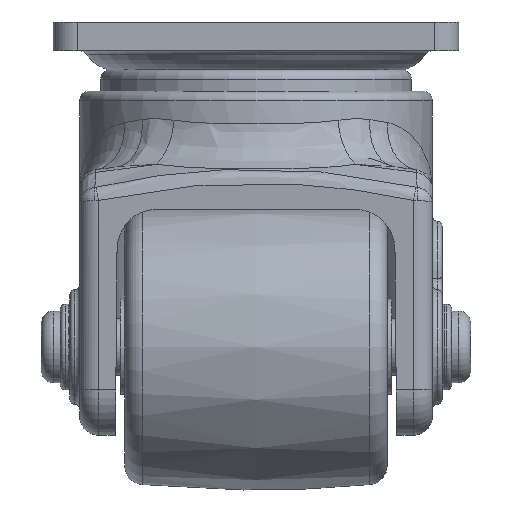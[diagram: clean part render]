
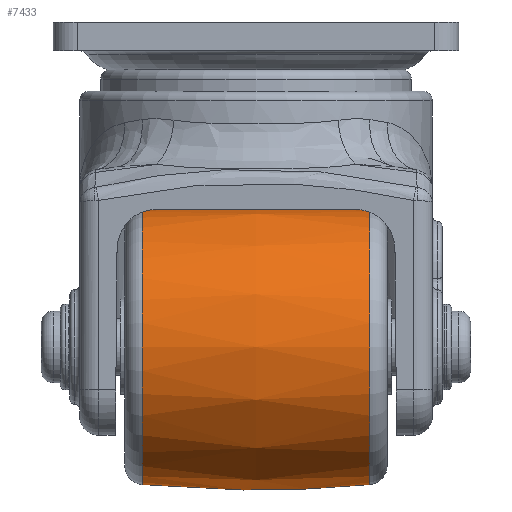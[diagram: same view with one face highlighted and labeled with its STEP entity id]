
A CAD part, left-side view. The second image highlights one B-rep face of the part: STEP entity #7433.
In plain terms, the highlighted free-form (B-spline) face has degree [2, 2] with [3, 9] control points.
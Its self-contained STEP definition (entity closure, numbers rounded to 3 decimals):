
#15=(
BOUNDED_CURVE()
B_SPLINE_CURVE(2,(#22736,#22737,#22738),.UNSPECIFIED.,.F.,.F.)
B_SPLINE_CURVE_WITH_KNOTS((3,3),(-0.096,0.096),
 .UNSPECIFIED.)
CURVE()
GEOMETRIC_REPRESENTATION_ITEM()
RATIONAL_B_SPLINE_CURVE((1.,0.995,1.))
REPRESENTATION_ITEM('')
);
#41=(
BOUNDED_SURFACE()
B_SPLINE_SURFACE(2,2,((#22708,#22709,#22710,#22711,#22712,#22713,#22714,
#22715,#22716),(#22717,#22718,#22719,#22720,#22721,#22722,#22723,#22724,
#22725),(#22726,#22727,#22728,#22729,#22730,#22731,#22732,#22733,#22734)),
 .UNSPECIFIED.,.F.,.T.,.F.)
B_SPLINE_SURFACE_WITH_KNOTS((3,3),(3,2,2,2,3),(-0.096,0.096),
(-3.142,-1.571,0.,1.571,3.142),
 .UNSPECIFIED.)
GEOMETRIC_REPRESENTATION_ITEM()
RATIONAL_B_SPLINE_SURFACE(((1.,0.707,1.,0.707,1.,
0.707,1.,0.707,1.),(0.995,0.704,
0.995,0.704,0.995,0.704,
0.995,0.704,0.995),(1.,0.707,
1.,0.707,1.,0.707,1.,0.707,1.)))
REPRESENTATION_ITEM('')
SURFACE()
);
#570=CIRCLE('',#8159,28.857);
#571=CIRCLE('',#8160,28.857);
#572=CIRCLE('',#8161,28.857);
#573=CIRCLE('',#8162,28.857);
#1557=FACE_OUTER_BOUND('',#2126,.T.);
#2126=EDGE_LOOP('',(#6763,#6764,#6765,#6766,#6767,#6768));
#3623=VERTEX_POINT('',#22704);
#3624=VERTEX_POINT('',#22705);
#3625=VERTEX_POINT('',#22735);
#3626=VERTEX_POINT('',#22739);
#4683=EDGE_CURVE('',#3623,#3624,#570,.T.);
#4684=EDGE_CURVE('',#3624,#3623,#571,.T.);
#4685=EDGE_CURVE('',#3624,#3625,#15,.T.);
#4686=EDGE_CURVE('',#3626,#3625,#572,.T.);
#4687=EDGE_CURVE('',#3625,#3626,#573,.T.);
#6763=ORIENTED_EDGE('',*,*,#4683,.T.);
#6764=ORIENTED_EDGE('',*,*,#4685,.T.);
#6765=ORIENTED_EDGE('',*,*,#4686,.F.);
#6766=ORIENTED_EDGE('',*,*,#4687,.F.);
#6767=ORIENTED_EDGE('',*,*,#4685,.F.);
#6768=ORIENTED_EDGE('',*,*,#4684,.T.);
#7433=ADVANCED_FACE('',(#1557),#41,.F.);
#8159=AXIS2_PLACEMENT_3D('',#22706,#9975,#9976);
#8160=AXIS2_PLACEMENT_3D('',#22707,#9977,#9978);
#8161=AXIS2_PLACEMENT_3D('',#22740,#9979,#9980);
#8162=AXIS2_PLACEMENT_3D('',#22741,#9981,#9982);
#9975=DIRECTION('center_axis',(0.,-1.,0.));
#9976=DIRECTION('ref_axis',(1.,0.,0.));
#9977=DIRECTION('center_axis',(0.,-1.,0.));
#9978=DIRECTION('ref_axis',(1.,0.,0.));
#9979=DIRECTION('center_axis',(0.,-1.,0.));
#9980=DIRECTION('ref_axis',(1.,0.,0.));
#9981=DIRECTION('center_axis',(0.,-1.,0.));
#9982=DIRECTION('ref_axis',(1.,0.,0.));
#22704=CARTESIAN_POINT('',(100.326,143.221,-17.05));
#22705=CARTESIAN_POINT('',(71.47,143.221,-45.907));
#22706=CARTESIAN_POINT('Origin',(71.47,143.221,-17.05));
#22707=CARTESIAN_POINT('Origin',(71.47,143.221,-17.05));
#22708=CARTESIAN_POINT('Ctrl Pts',(71.47,95.456,-45.907));
#22709=CARTESIAN_POINT('Ctrl Pts',(42.613,95.456,-45.907));
#22710=CARTESIAN_POINT('Ctrl Pts',(42.613,95.456,-17.05));
#22711=CARTESIAN_POINT('Ctrl Pts',(42.613,95.456,11.807));
#22712=CARTESIAN_POINT('Ctrl Pts',(71.47,95.456,11.807));
#22713=CARTESIAN_POINT('Ctrl Pts',(100.326,95.456,11.807));
#22714=CARTESIAN_POINT('Ctrl Pts',(100.326,95.456,-17.05));
#22715=CARTESIAN_POINT('Ctrl Pts',(100.326,95.456,-45.907));
#22716=CARTESIAN_POINT('Ctrl Pts',(71.47,95.456,-45.907));
#22717=CARTESIAN_POINT('Ctrl Pts',(71.47,119.339,-48.199));
#22718=CARTESIAN_POINT('Ctrl Pts',(40.321,119.339,-48.199));
#22719=CARTESIAN_POINT('Ctrl Pts',(40.321,119.339,-17.05));
#22720=CARTESIAN_POINT('Ctrl Pts',(40.321,119.339,14.099));
#22721=CARTESIAN_POINT('Ctrl Pts',(71.47,119.339,14.099));
#22722=CARTESIAN_POINT('Ctrl Pts',(102.618,119.339,14.099));
#22723=CARTESIAN_POINT('Ctrl Pts',(102.618,119.339,-17.05));
#22724=CARTESIAN_POINT('Ctrl Pts',(102.618,119.339,-48.199));
#22725=CARTESIAN_POINT('Ctrl Pts',(71.47,119.339,-48.199));
#22726=CARTESIAN_POINT('Ctrl Pts',(71.47,143.221,-45.907));
#22727=CARTESIAN_POINT('Ctrl Pts',(42.613,143.221,-45.907));
#22728=CARTESIAN_POINT('Ctrl Pts',(42.613,143.221,-17.05));
#22729=CARTESIAN_POINT('Ctrl Pts',(42.613,143.221,11.807));
#22730=CARTESIAN_POINT('Ctrl Pts',(71.47,143.221,11.807));
#22731=CARTESIAN_POINT('Ctrl Pts',(100.326,143.221,11.807));
#22732=CARTESIAN_POINT('Ctrl Pts',(100.326,143.221,-17.05));
#22733=CARTESIAN_POINT('Ctrl Pts',(100.326,143.221,-45.907));
#22734=CARTESIAN_POINT('Ctrl Pts',(71.47,143.221,-45.907));
#22735=CARTESIAN_POINT('',(71.47,95.456,-45.907));
#22736=CARTESIAN_POINT('Ctrl Pts',(71.47,143.221,-45.907));
#22737=CARTESIAN_POINT('Ctrl Pts',(71.47,119.339,-48.199));
#22738=CARTESIAN_POINT('Ctrl Pts',(71.47,95.456,-45.907));
#22739=CARTESIAN_POINT('',(100.326,95.456,-17.05));
#22740=CARTESIAN_POINT('Origin',(71.47,95.456,-17.05));
#22741=CARTESIAN_POINT('Origin',(71.47,95.456,-17.05));
